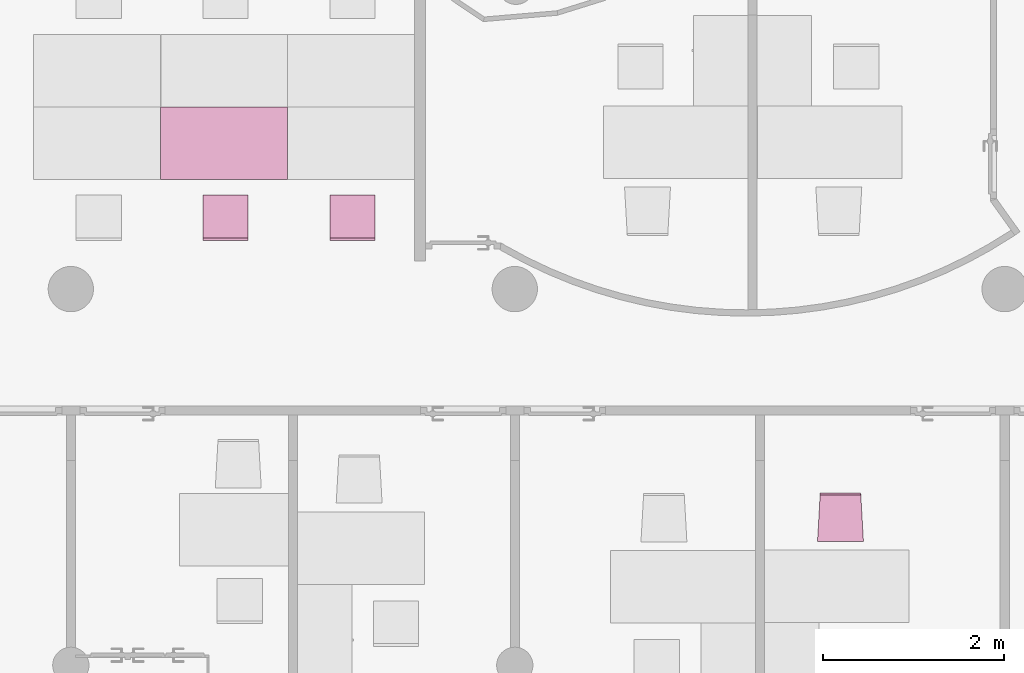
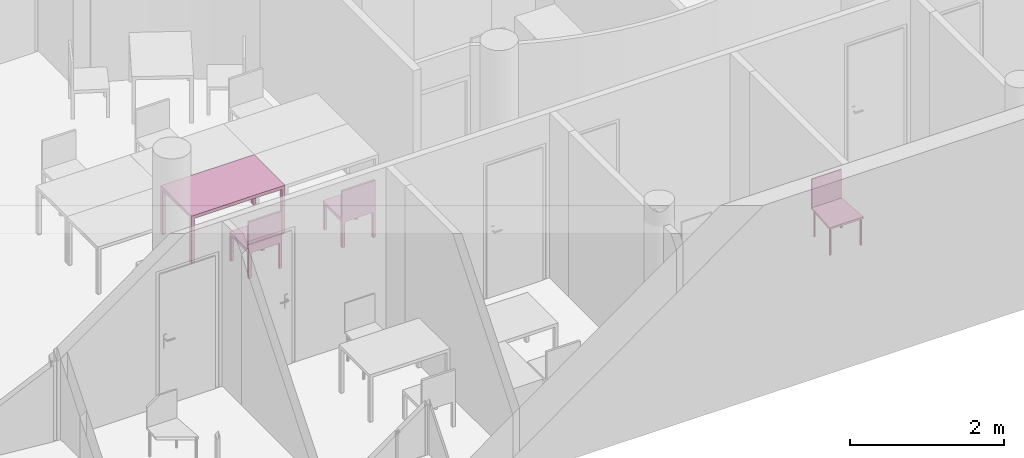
"""IFC4 building model written with IfcOpenShell, lengths in metres."""

from ifc_helpers import new_model, entity, si_unit, converted_unit, derived_unit, frame, origin, place, context, subcontext, project, spatial, faceted_brep, element, save


model = new_model("IFC4")

# Units and contexts
model_context = context("Model", 3, precision=1e-05, world=origin())
body_context = subcontext(model_context, "Body", "Model", "MODEL_VIEW")
ifc_project = project(units=[si_unit("LENGTHUNIT", "METRE"), si_unit("AREAUNIT", "SQUARE_METRE"), si_unit("VOLUMEUNIT", "CUBIC_METRE"), si_unit("MASSUNIT", "GRAM", prefix="KILO"), converted_unit("PLANEANGLEUNIT", "DEGREE", entity("IfcPlaneAngleMeasure", 0.0174532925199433), si_unit("PLANEANGLEUNIT", "RADIAN"), dimensions=[0, 0, 0, 0, 0, 0, 0]), derived_unit("THERMALTRANSMITTANCEUNIT", [(si_unit("POWERUNIT", "WATT"), 1), (si_unit("THERMODYNAMICTEMPERATUREUNIT", "KELVIN"), -1), (si_unit("LENGTHUNIT", "METRE"), -2)]), derived_unit("VOLUMETRICFLOWRATEUNIT", [(si_unit("LENGTHUNIT", "METRE"), 3), (converted_unit("TIMEUNIT", "hour", entity("IfcTimeMeasure", 3600.0), si_unit("TIMEUNIT", "SECOND"), dimensions=[0, 0, 1, 0, 0, 0, 0]), -1), (si_unit("LENGTHUNIT", "METRE"), -1)])], contexts=[model_context])

# Building, storeys
building_placement = place(None, origin())
building = spatial("IfcBuilding", under=ifc_project, at=building_placement, Name="HABITATGE PLURIFAMILIAR", CompositionType="ELEMENT")
storey_1_placement = place(building_placement, frame((0.0, 0.0, 6.25)))
storey_1 = spatial("IfcBuildingStorey", under=building, at=storey_1_placement, Name="PLANTA PRIMERA", CompositionType="ELEMENT", Elevation=6.25)
storey_2_placement = place(storey_1_placement, frame((0.0, 0.0, 3.35)))
storey_2 = spatial("IfcBuildingStorey", under=storey_1, at=storey_2_placement, Name="NOU", CompositionType="PARTIAL")

# Furniture
furniture_1_placement = place(storey_2_placement, frame((406.826915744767, 19.0086552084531, -3.35)))
element("IfcFurniture", 1, at=furniture_1_placement, inside=storey_2, Name="Taula 140X80_P1", context=body_context, shape_type="Brep", body=[
    faceted_brep([(1.40000000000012, 0.05, 0.0), (1.35357142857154, 0.05, 0.0), (1.35357142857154, 0.0, 0.0), (1.40000000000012, 0.0, 0.0), (1.40000000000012, 0.0, 0.7), (1.35357142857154, 0.0, 0.7), (1.35357142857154, 0.05, 0.7), (1.40000000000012, 0.05, 0.7)], [[[0, 1, 2, 3]], [[4, 5, 6, 7]], [[3, 4, 7, 0]], [[2, 5, 4, 3]], [[1, 6, 5, 2]], [[0, 7, 6, 1]]], orient=[[False], [False], [False], [False], [False], [False]]),
    faceted_brep([(1.40000000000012, 0.800069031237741, 0.0), (1.35357142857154, 0.800069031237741, 0.0), (1.35357142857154, 0.750069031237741, 0.0), (1.40000000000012, 0.750069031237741, 0.0), (1.40000000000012, 0.750069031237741, 0.7), (1.35357142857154, 0.750069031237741, 0.7), (1.35357142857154, 0.800069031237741, 0.7), (1.40000000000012, 0.800069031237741, 0.7)], [[[0, 1, 2, 3]], [[4, 5, 6, 7]], [[3, 4, 7, 0]], [[2, 5, 4, 3]], [[1, 6, 5, 2]], [[0, 7, 6, 1]]], orient=[[False], [False], [False], [False], [False], [False]]),
    faceted_brep([(1.40000000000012, 0.800069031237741, 0.7), (0.0, 0.800069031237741, 0.7), (0.0, 0.0, 0.7), (1.40000000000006, 0.0, 0.7), (1.40000000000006, 0.0, 0.75), (0.0, 0.0, 0.75), (0.0, 0.800069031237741, 0.75), (1.40000000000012, 0.800069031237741, 0.75)], [[[0, 1, 2, 3]], [[4, 5, 6, 7]], [[3, 4, 7, 0]], [[2, 5, 4, 3]], [[1, 6, 5, 2]], [[0, 7, 6, 1]]], orient=[[False], [False], [False], [False], [False], [False]]),
    faceted_brep([(0.046428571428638, 0.05, 0.0), (0.0, 0.05, 0.0), (0.0, 0.0, 0.0), (0.046428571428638, 0.0, 0.0), (0.046428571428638, 0.0, 0.7), (0.0, 0.0, 0.7), (0.0, 0.05, 0.7), (0.046428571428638, 0.05, 0.7)], [[[0, 1, 2, 3]], [[4, 5, 6, 7]], [[3, 4, 7, 0]], [[2, 5, 4, 3]], [[1, 6, 5, 2]], [[0, 7, 6, 1]]], orient=[[False], [False], [False], [False], [False], [False]]),
    faceted_brep([(0.046428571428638, 0.800069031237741, 0.0), (0.0, 0.800069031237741, 0.0), (0.0, 0.750069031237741, 0.0), (0.046428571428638, 0.750069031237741, 0.0), (0.046428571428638, 0.750069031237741, 0.7), (0.0, 0.750069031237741, 0.7), (0.0, 0.800069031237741, 0.7), (0.046428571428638, 0.800069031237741, 0.7)], [[[0, 1, 2, 3]], [[4, 5, 6, 7]], [[3, 4, 7, 0]], [[2, 5, 4, 3]], [[1, 6, 5, 2]], [[0, 7, 6, 1]]], orient=[[False], [False], [False], [False], [False], [False]]),
])
furniture_2_placement = place(storey_2_placement, frame((407.293907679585, 18.3347015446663, -3.34942958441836)))
element("IfcFurniture", 2, at=furniture_2_placement, inside=storey_2, Name="Cadira d'Oficina_P1", context=body_context, shape_type="Brep", body=[
    faceted_brep([(0.5, 0.5, 0.4), (0.0, 0.5, 0.4), (0.0, 0.0, 0.4), (0.5, 0.0, 0.4), (0.5, 0.0, 0.45), (0.0, 0.0, 0.45), (0.0, 0.5, 0.45), (0.5, 0.5, 0.45)], [[[0, 1, 2, 3]], [[4, 5, 6, 7]], [[3, 4, 7, 0]], [[2, 5, 4, 3]], [[1, 6, 5, 2]], [[0, 7, 6, 1]]], orient=[[False], [False], [False], [False], [False], [False]]),
    faceted_brep([(0.0, 0.04, 0.0), (0.0, 0.0, 0.0), (0.04, 0.0, 0.0), (0.04, 0.04, 0.0), (0.04, 0.04, 0.4), (0.04, 0.0, 0.4), (0.0, 0.0, 0.4), (0.0, 0.04, 0.4)], [[[0, 1, 2, 3]], [[4, 5, 6, 7]], [[3, 4, 7, 0]], [[2, 5, 4, 3]], [[1, 6, 5, 2]], [[0, 7, 6, 1]]], orient=[[False], [False], [False], [False], [False], [False]]),
    faceted_brep([(0.0, 0.5, 0.0), (0.0, 0.46, 0.0), (0.04, 0.46, 0.0), (0.04, 0.5, 0.0), (0.04, 0.5, 0.4), (0.04, 0.46, 0.4), (0.0, 0.46, 0.4), (0.0, 0.5, 0.4)], [[[0, 1, 2, 3]], [[4, 5, 6, 7]], [[3, 4, 7, 0]], [[2, 5, 4, 3]], [[1, 6, 5, 2]], [[0, 7, 6, 1]]], orient=[[False], [False], [False], [False], [False], [False]]),
    faceted_brep([(0.46, 0.04, 0.0), (0.46, 0.0, 0.0), (0.5, 0.0, 0.0), (0.5, 0.04, 0.0), (0.5, 0.04, 0.4), (0.5, 0.0, 0.4), (0.46, 0.0, 0.4), (0.46, 0.04, 0.4)], [[[0, 1, 2, 3]], [[4, 5, 6, 7]], [[3, 4, 7, 0]], [[2, 5, 4, 3]], [[1, 6, 5, 2]], [[0, 7, 6, 1]]], orient=[[False], [False], [False], [False], [False], [False]]),
    faceted_brep([(0.46, 0.5, 0.0), (0.46, 0.46, 0.0), (0.5, 0.46, 0.0), (0.5, 0.5, 0.0), (0.5, 0.5, 0.4), (0.5, 0.46, 0.4), (0.46, 0.46, 0.4), (0.46, 0.5, 0.4)], [[[0, 1, 2, 3]], [[4, 5, 6, 7]], [[3, 4, 7, 0]], [[2, 5, 4, 3]], [[1, 6, 5, 2]], [[0, 7, 6, 1]]], orient=[[False], [False], [False], [False], [False], [False]]),
    faceted_brep([(0.0, 0.03, 0.45), (0.0, 0.0, 0.45), (0.5, 0.0, 0.45), (0.5, 0.03, 0.45), (0.5, 0.03, 0.9), (0.5, 0.0, 0.9), (0.0, 0.0, 0.9), (0.0, 0.03, 0.9)], [[[0, 1, 2, 3]], [[4, 5, 6, 7]], [[3, 4, 7, 0]], [[2, 5, 4, 3]], [[1, 6, 5, 2]], [[0, 7, 6, 1]]], orient=[[False], [False], [False], [False], [False], [False]]),
])
furniture_3_placement = place(storey_2_placement, frame((408.693907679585, 18.3347015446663, -3.34942958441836)))
element("IfcFurniture", 3, at=furniture_3_placement, inside=storey_2, Name="Cadira d'Oficina_P1", context=body_context, shape_type="Brep", body=[
    faceted_brep([(0.5, 0.500000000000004, 0.4), (0.0, 0.500000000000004, 0.4), (0.0, 0.0, 0.4), (0.5, 0.0, 0.4), (0.5, 0.0, 0.45), (0.0, 0.0, 0.45), (0.0, 0.500000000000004, 0.45), (0.5, 0.500000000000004, 0.45)], [[[0, 1, 2, 3]], [[4, 5, 6, 7]], [[3, 4, 7, 0]], [[2, 5, 4, 3]], [[1, 6, 5, 2]], [[0, 7, 6, 1]]], orient=[[False], [False], [False], [False], [False], [False]]),
    faceted_brep([(0.0, 0.04, 0.0), (0.0, 0.0, 0.0), (0.04, 0.0, 0.0), (0.04, 0.04, 0.0), (0.04, 0.04, 0.4), (0.04, 0.0, 0.4), (0.0, 0.0, 0.4), (0.0, 0.04, 0.4)], [[[0, 1, 2, 3]], [[4, 5, 6, 7]], [[3, 4, 7, 0]], [[2, 5, 4, 3]], [[1, 6, 5, 2]], [[0, 7, 6, 1]]], orient=[[False], [False], [False], [False], [False], [False]]),
    faceted_brep([(0.0, 0.500000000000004, 0.0), (0.0, 0.460000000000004, 0.0), (0.04, 0.460000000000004, 0.0), (0.04, 0.500000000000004, 0.0), (0.04, 0.500000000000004, 0.4), (0.04, 0.460000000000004, 0.4), (0.0, 0.460000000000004, 0.4), (0.0, 0.500000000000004, 0.4)], [[[0, 1, 2, 3]], [[4, 5, 6, 7]], [[3, 4, 7, 0]], [[2, 5, 4, 3]], [[1, 6, 5, 2]], [[0, 7, 6, 1]]], orient=[[False], [False], [False], [False], [False], [False]]),
    faceted_brep([(0.46, 0.04, 0.0), (0.46, 0.0, 0.0), (0.5, 0.0, 0.0), (0.5, 0.04, 0.0), (0.5, 0.04, 0.4), (0.5, 0.0, 0.4), (0.46, 0.0, 0.4), (0.46, 0.04, 0.4)], [[[0, 1, 2, 3]], [[4, 5, 6, 7]], [[3, 4, 7, 0]], [[2, 5, 4, 3]], [[1, 6, 5, 2]], [[0, 7, 6, 1]]], orient=[[False], [False], [False], [False], [False], [False]]),
    faceted_brep([(0.46, 0.500000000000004, 0.0), (0.46, 0.460000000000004, 0.0), (0.5, 0.460000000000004, 0.0), (0.5, 0.500000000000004, 0.0), (0.5, 0.500000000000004, 0.4), (0.5, 0.460000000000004, 0.4), (0.46, 0.460000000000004, 0.4), (0.46, 0.500000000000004, 0.4)], [[[0, 1, 2, 3]], [[4, 5, 6, 7]], [[3, 4, 7, 0]], [[2, 5, 4, 3]], [[1, 6, 5, 2]], [[0, 7, 6, 1]]], orient=[[False], [False], [False], [False], [False], [False]]),
    faceted_brep([(0.0, 0.03, 0.45), (0.0, 0.0, 0.45), (0.5, 0.0, 0.45), (0.5, 0.03, 0.45), (0.5, 0.03, 0.9), (0.5, 0.0, 0.9), (0.0, 0.0, 0.9), (0.0, 0.03, 0.9)], [[[0, 1, 2, 3]], [[4, 5, 6, 7]], [[3, 4, 7, 0]], [[2, 5, 4, 3]], [[1, 6, 5, 2]], [[0, 7, 6, 1]]], orient=[[False], [False], [False], [False], [False], [False]]),
])
furniture_4_placement = place(storey_2_placement, frame((414.072892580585, 15.0153044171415, -3.35114412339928)))
element("IfcFurniture", 4, at=furniture_4_placement, inside=storey_2, Name="Cadira confient_P1", context=body_context, shape_type="Brep", body=[
    faceted_brep([(0.497227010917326, 0.0250324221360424, 0.0), (0.49701133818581, 0.0276273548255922, 0.0), (0.496348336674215, 0.0301454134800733, 0.0), (0.495258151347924, 0.0325100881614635, 0.0), (0.493773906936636, 0.0346495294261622, 0.0), (0.49194070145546, 0.0364987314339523, 0.0), (0.489814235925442, 0.0380015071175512, 0.0), (0.487459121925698, 0.0391121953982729, 0.0), (0.484946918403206, 0.0397970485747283, 0.0), (0.482353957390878, 0.0400352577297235, 0.0), (0.479759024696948, 0.0398195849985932, 0.0), (0.477240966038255, 0.0391565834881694, 0.0), (0.474876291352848, 0.0380663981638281, 0.0), (0.472736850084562, 0.0365821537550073, 0.0), (0.470887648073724, 0.0347489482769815, 0.0), (0.469384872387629, 0.0326224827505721, 0.0), (0.468274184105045, 0.0302673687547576, 0.0), (0.467589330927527, 0.0277551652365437, 0.0), (0.467351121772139, 0.0251622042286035, 0.0), (0.467566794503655, 0.0225672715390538, 0.0), (0.46822979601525, 0.0200492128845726, 0.0), (0.469319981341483, 0.0176845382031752, 0.0), (0.470804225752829, 0.0155450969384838, 0.0), (0.472637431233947, 0.0136958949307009, 0.0), (0.474763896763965, 0.012193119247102, 0.0), (0.477119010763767, 0.0110824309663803, 0.0), (0.479631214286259, 0.0103975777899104, 0.0), (0.482224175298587, 0.0101593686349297, 0.0), (0.484819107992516, 0.0103750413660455, 0.0), (0.48733716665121, 0.0110380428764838, 0.0), (0.489701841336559, 0.0121282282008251, 0.0), (0.491841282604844, 0.0136124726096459, 0.0), (0.493690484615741, 0.0154456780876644, 0.0), (0.495193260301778, 0.0175721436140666, 0.0), (0.49630394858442, 0.0199272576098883, 0.0), (0.496988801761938, 0.0224394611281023, 0.0), (0.497227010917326, 0.0250324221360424, 0.448281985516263), (0.496988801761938, 0.0224394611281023, 0.448281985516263), (0.49630394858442, 0.0199272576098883, 0.448281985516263), (0.495193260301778, 0.0175721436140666, 0.448281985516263), (0.493690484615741, 0.0154456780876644, 0.448281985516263), (0.491841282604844, 0.0136124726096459, 0.448281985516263), (0.489701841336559, 0.0121282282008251, 0.448281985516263), (0.48733716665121, 0.0110380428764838, 0.448281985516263), (0.484819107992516, 0.0103750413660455, 0.448281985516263), (0.482224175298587, 0.0101593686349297, 0.448281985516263), (0.479631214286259, 0.0103975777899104, 0.448281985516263), (0.477119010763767, 0.0110824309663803, 0.448281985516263), (0.474763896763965, 0.012193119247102, 0.448281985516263), (0.472637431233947, 0.0136958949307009, 0.448281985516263), (0.470804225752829, 0.0155450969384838, 0.448281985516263), (0.469319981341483, 0.0176845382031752, 0.448281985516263), (0.46822979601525, 0.0200492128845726, 0.448281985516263), (0.467566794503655, 0.0225672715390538, 0.448281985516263), (0.467351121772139, 0.0251622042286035, 0.448281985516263), (0.467589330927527, 0.0277551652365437, 0.448281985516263), (0.468274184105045, 0.0302673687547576, 0.448281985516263), (0.469384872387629, 0.0326224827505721, 0.448281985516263), (0.470887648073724, 0.0347489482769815, 0.448281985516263), (0.472736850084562, 0.0365821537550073, 0.448281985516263), (0.474876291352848, 0.0380663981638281, 0.448281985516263), (0.477240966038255, 0.0391565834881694, 0.448281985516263), (0.479759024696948, 0.0398195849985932, 0.448281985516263), (0.482353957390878, 0.0400352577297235, 0.448281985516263), (0.484946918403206, 0.0397970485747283, 0.448281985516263), (0.487459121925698, 0.0391121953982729, 0.448281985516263), (0.489814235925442, 0.0380015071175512, 0.448281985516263), (0.49194070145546, 0.0364987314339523, 0.448281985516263), (0.493773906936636, 0.0346495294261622, 0.448281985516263), (0.495258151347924, 0.0325100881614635, 0.448281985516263), (0.496348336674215, 0.0301454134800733, 0.448281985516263), (0.49701133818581, 0.0276273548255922, 0.448281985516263)], [[[0, 1, 2, 3, 4, 5, 6, 7, 8, 9, 10, 11, 12, 13, 14, 15, 16, 17, 18, 19, 20, 21, 22, 23, 24, 25, 26, 27, 28, 29, 30, 31, 32, 33, 34, 35]], [[36, 37, 38, 39, 40, 41, 42, 43, 44, 45, 46, 47, 48, 49, 50, 51, 52, 53, 54, 55, 56, 57, 58, 59, 60, 61, 62, 63, 64, 65, 66, 67, 68, 69, 70, 71]], [[1, 0, 36, 71]], [[2, 1, 71, 70]], [[3, 2, 70, 69]], [[4, 3, 69, 68]], [[5, 4, 68, 67]], [[6, 5, 67, 66]], [[7, 6, 66, 65]], [[8, 7, 65, 64]], [[9, 8, 64, 63]], [[10, 9, 63, 62]], [[11, 10, 62, 61]], [[12, 11, 61, 60]], [[13, 12, 60, 59]], [[14, 13, 59, 58]], [[15, 14, 58, 57]], [[16, 15, 57, 56]], [[17, 16, 56, 55]], [[18, 17, 55, 54]], [[19, 18, 54, 53]], [[20, 19, 53, 52]], [[21, 20, 52, 51]], [[22, 21, 51, 50]], [[23, 22, 50, 49]], [[24, 23, 49, 48]], [[25, 24, 48, 47]], [[26, 25, 47, 46]], [[27, 26, 46, 45]], [[28, 27, 45, 44]], [[29, 28, 44, 43]], [[30, 29, 43, 42]], [[31, 30, 42, 41]], [[32, 31, 41, 40]], [[33, 32, 40, 39]], [[34, 33, 39, 38]], [[35, 34, 38, 37]], [[0, 35, 37, 36]]], orient=[[False], [False], [False], [False], [False], [False], [False], [False], [False], [False], [False], [False], [False], [False], [False], [False], [False], [False], [False], [False], [False], [False], [False], [False], [False], [False], [False], [False], [False], [False], [False], [False], [False], [False], [False], [False], [False], [False]]),
    faceted_brep([(0.469589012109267, 0.487439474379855, 0.0), (0.469373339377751, 0.490034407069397, 0.0), (0.468710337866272, 0.492552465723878, 0.0), (0.467620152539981, 0.494917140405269, 0.0), (0.466135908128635, 0.497056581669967, 0.0), (0.464302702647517, 0.498905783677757, 0.0), (0.462176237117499, 0.500408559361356, 0.0), (0.459821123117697, 0.501519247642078, 0.0), (0.457308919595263, 0.502204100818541, 0.0), (0.454715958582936, 0.502442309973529, 0.0), (0.452121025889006, 0.502226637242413, 0.0), (0.449602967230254, 0.501563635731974, 0.0), (0.447238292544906, 0.500473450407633, 0.0), (0.44509885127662, 0.498989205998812, 0.0), (0.443249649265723, 0.497156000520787, 0.0), (0.441746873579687, 0.495029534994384, 0.0), (0.440636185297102, 0.49267442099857, 0.0), (0.439951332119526, 0.490162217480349, 0.0), (0.439713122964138, 0.487569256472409, 0.0), (0.439928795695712, 0.484974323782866, 0.0), (0.440591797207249, 0.482456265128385, 0.0), (0.441681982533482, 0.480091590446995, 0.0), (0.443166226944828, 0.477952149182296, 0.0), (0.444999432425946, 0.476102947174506, 0.0), (0.447125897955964, 0.474600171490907, 0.0), (0.449481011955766, 0.473489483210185, 0.0), (0.451993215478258, 0.47280463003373, 0.0), (0.454586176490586, 0.472566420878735, 0.0), (0.457181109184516, 0.472782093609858, 0.0), (0.45969916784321, 0.473445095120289, 0.0), (0.462063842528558, 0.47453528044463, 0.0), (0.464203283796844, 0.476019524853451, 0.0), (0.466052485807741, 0.477852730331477, 0.0), (0.467555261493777, 0.479979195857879, 0.0), (0.468665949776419, 0.482334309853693, 0.0), (0.469350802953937, 0.484846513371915, 0.0), (0.469589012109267, 0.487439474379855, 0.448281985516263), (0.469350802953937, 0.484846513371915, 0.448281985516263), (0.468665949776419, 0.482334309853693, 0.448281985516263), (0.467555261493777, 0.479979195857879, 0.448281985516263), (0.466052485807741, 0.477852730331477, 0.448281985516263), (0.464203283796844, 0.476019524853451, 0.448281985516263), (0.462063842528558, 0.47453528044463, 0.448281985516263), (0.45969916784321, 0.473445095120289, 0.448281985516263), (0.457181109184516, 0.472782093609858, 0.448281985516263), (0.454586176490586, 0.472566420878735, 0.448281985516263), (0.451993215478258, 0.47280463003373, 0.448281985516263), (0.449481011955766, 0.473489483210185, 0.448281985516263), (0.447125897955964, 0.474600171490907, 0.448281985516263), (0.444999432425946, 0.476102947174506, 0.448281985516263), (0.443166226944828, 0.477952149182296, 0.448281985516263), (0.441681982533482, 0.480091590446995, 0.448281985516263), (0.440591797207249, 0.482456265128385, 0.448281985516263), (0.439928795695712, 0.484974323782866, 0.448281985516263), (0.439713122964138, 0.487569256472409, 0.448281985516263), (0.439951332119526, 0.490162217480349, 0.448281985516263), (0.440636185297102, 0.49267442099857, 0.448281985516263), (0.441746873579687, 0.495029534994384, 0.448281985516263), (0.443249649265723, 0.497156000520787, 0.448281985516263), (0.44509885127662, 0.498989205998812, 0.448281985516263), (0.447238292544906, 0.500473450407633, 0.448281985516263), (0.449602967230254, 0.501563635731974, 0.448281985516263), (0.452121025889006, 0.502226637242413, 0.448281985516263), (0.454715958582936, 0.502442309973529, 0.448281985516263), (0.457308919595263, 0.502204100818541, 0.448281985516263), (0.459821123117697, 0.501519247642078, 0.448281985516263), (0.462176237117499, 0.500408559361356, 0.448281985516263), (0.464302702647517, 0.498905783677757, 0.448281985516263), (0.466135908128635, 0.497056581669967, 0.448281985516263), (0.467620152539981, 0.494917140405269, 0.448281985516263), (0.468710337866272, 0.492552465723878, 0.448281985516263), (0.469373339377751, 0.490034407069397, 0.448281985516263)], [[[0, 1, 2, 3, 4, 5, 6, 7, 8, 9, 10, 11, 12, 13, 14, 15, 16, 17, 18, 19, 20, 21, 22, 23, 24, 25, 26, 27, 28, 29, 30, 31, 32, 33, 34, 35]], [[36, 37, 38, 39, 40, 41, 42, 43, 44, 45, 46, 47, 48, 49, 50, 51, 52, 53, 54, 55, 56, 57, 58, 59, 60, 61, 62, 63, 64, 65, 66, 67, 68, 69, 70, 71]], [[1, 0, 36, 71]], [[2, 1, 71, 70]], [[3, 2, 70, 69]], [[4, 3, 69, 68]], [[5, 4, 68, 67]], [[6, 5, 67, 66]], [[7, 6, 66, 65]], [[8, 7, 65, 64]], [[9, 8, 64, 63]], [[10, 9, 63, 62]], [[11, 10, 62, 61]], [[12, 11, 61, 60]], [[13, 12, 60, 59]], [[14, 13, 59, 58]], [[15, 14, 58, 57]], [[16, 15, 57, 56]], [[17, 16, 56, 55]], [[18, 17, 55, 54]], [[19, 18, 54, 53]], [[20, 19, 53, 52]], [[21, 20, 52, 51]], [[22, 21, 51, 50]], [[23, 22, 50, 49]], [[24, 23, 49, 48]], [[25, 24, 48, 47]], [[26, 25, 47, 46]], [[27, 26, 46, 45]], [[28, 27, 45, 44]], [[29, 28, 44, 43]], [[30, 29, 43, 42]], [[31, 30, 42, 41]], [[32, 31, 41, 40]], [[33, 32, 40, 39]], [[34, 33, 39, 38]], [[35, 34, 38, 37]], [[0, 35, 37, 36]]], orient=[[False], [False], [False], [False], [False], [False], [False], [False], [False], [False], [False], [False], [False], [False], [False], [False], [False], [False], [False], [False], [False], [False], [False], [False], [False], [False], [False], [False], [False], [False], [False], [False], [False], [False], [False], [False], [False], [False]]),
    faceted_brep([(0.0372270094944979, 0.0250324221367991, 0.0), (0.0370113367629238, 0.0276273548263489, 0.0), (0.0363483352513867, 0.0301454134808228, 0.0), (0.0352581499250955, 0.0325100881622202, 0.0), (0.0337739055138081, 0.0346495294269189, 0.0), (0.0319407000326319, 0.0364987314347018, 0.0), (0.0298142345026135, 0.0380015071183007, 0.0), (0.0274591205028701, 0.0391121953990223, 0.0), (0.0249469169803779, 0.039797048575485, 0.0), (0.0223539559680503, 0.040035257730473, 0.0), (0.0197590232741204, 0.0398195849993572, 0.0), (0.0172409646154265, 0.0391565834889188, 0.0), (0.0148762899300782, 0.0380663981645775, 0.0), (0.0127368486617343, 0.0365821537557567, 0.0), (0.0108876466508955, 0.0347489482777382, 0.0), (0.00938487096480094, 0.0326224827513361, 0.0), (0.00827418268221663, 0.0302673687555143, 0.0), (0.00758932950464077, 0.0277551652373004, 0.0), (0.0073511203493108, 0.0251622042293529, 0.0), (0.00756679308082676, 0.0225672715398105, 0.0), (0.00822979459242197, 0.0200492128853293, 0.0), (0.00931997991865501, 0.0176845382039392, 0.0), (0.0108042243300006, 0.0155450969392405, 0.0), (0.0126374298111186, 0.0136958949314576, 0.0), (0.0147638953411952, 0.0121931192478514, 0.0), (0.0171190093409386, 0.0110824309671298, 0.0), (0.0196312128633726, 0.0103975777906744, 0.0), (0.0222241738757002, 0.0101593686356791, 0.0), (0.0248191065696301, 0.0103750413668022, 0.0), (0.0273371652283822, 0.0110380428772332, 0.0), (0.0297018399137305, 0.0121282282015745, 0.0), (0.0318412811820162, 0.0136124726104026, 0.0), (0.0336904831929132, 0.0154456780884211, 0.0), (0.0351932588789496, 0.0175721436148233, 0.0), (0.0363039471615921, 0.0199272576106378, 0.0), (0.0369888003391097, 0.022439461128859, 0.0), (0.0372270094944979, 0.0250324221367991, 0.448281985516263), (0.0369888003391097, 0.022439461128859, 0.448281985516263), (0.0363039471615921, 0.0199272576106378, 0.448281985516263), (0.0351932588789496, 0.0175721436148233, 0.448281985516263), (0.0336904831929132, 0.0154456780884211, 0.448281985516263), (0.0318412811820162, 0.0136124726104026, 0.448281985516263), (0.0297018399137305, 0.0121282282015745, 0.448281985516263), (0.0273371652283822, 0.0110380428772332, 0.448281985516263), (0.0248191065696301, 0.0103750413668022, 0.448281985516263), (0.0222241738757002, 0.0101593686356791, 0.448281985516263), (0.0196312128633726, 0.0103975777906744, 0.448281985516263), (0.0171190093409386, 0.0110824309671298, 0.448281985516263), (0.0147638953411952, 0.0121931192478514, 0.448281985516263), (0.0126374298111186, 0.0136958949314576, 0.448281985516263), (0.0108042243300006, 0.0155450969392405, 0.448281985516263), (0.00931997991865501, 0.0176845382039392, 0.448281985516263), (0.00822979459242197, 0.0200492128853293, 0.448281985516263), (0.00756679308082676, 0.0225672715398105, 0.448281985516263), (0.0073511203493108, 0.0251622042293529, 0.448281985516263), (0.00758932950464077, 0.0277551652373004, 0.448281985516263), (0.00827418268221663, 0.0302673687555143, 0.448281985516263), (0.00938487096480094, 0.0326224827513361, 0.448281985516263), (0.0108876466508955, 0.0347489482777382, 0.448281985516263), (0.0127368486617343, 0.0365821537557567, 0.448281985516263), (0.0148762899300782, 0.0380663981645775, 0.448281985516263), (0.0172409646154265, 0.0391565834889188, 0.448281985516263), (0.0197590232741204, 0.0398195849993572, 0.448281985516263), (0.0223539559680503, 0.040035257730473, 0.448281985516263), (0.0249469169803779, 0.039797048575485, 0.448281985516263), (0.0274591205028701, 0.0391121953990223, 0.448281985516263), (0.0298142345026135, 0.0380015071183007, 0.448281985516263), (0.0319407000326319, 0.0364987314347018, 0.448281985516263), (0.0337739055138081, 0.0346495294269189, 0.448281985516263), (0.0352581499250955, 0.0325100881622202, 0.448281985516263), (0.0363483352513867, 0.0301454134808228, 0.448281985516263), (0.0370113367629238, 0.0276273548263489, 0.448281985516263)], [[[0, 1, 2, 3, 4, 5, 6, 7, 8, 9, 10, 11, 12, 13, 14, 15, 16, 17, 18, 19, 20, 21, 22, 23, 24, 25, 26, 27, 28, 29, 30, 31, 32, 33, 34, 35]], [[36, 37, 38, 39, 40, 41, 42, 43, 44, 45, 46, 47, 48, 49, 50, 51, 52, 53, 54, 55, 56, 57, 58, 59, 60, 61, 62, 63, 64, 65, 66, 67, 68, 69, 70, 71]], [[1, 0, 36, 71]], [[2, 1, 71, 70]], [[3, 2, 70, 69]], [[4, 3, 69, 68]], [[5, 4, 68, 67]], [[6, 5, 67, 66]], [[7, 6, 66, 65]], [[8, 7, 65, 64]], [[9, 8, 64, 63]], [[10, 9, 63, 62]], [[11, 10, 62, 61]], [[12, 11, 61, 60]], [[13, 12, 60, 59]], [[14, 13, 59, 58]], [[15, 14, 58, 57]], [[16, 15, 57, 56]], [[17, 16, 56, 55]], [[18, 17, 55, 54]], [[19, 18, 54, 53]], [[20, 19, 53, 52]], [[21, 20, 52, 51]], [[22, 21, 51, 50]], [[23, 22, 50, 49]], [[24, 23, 49, 48]], [[25, 24, 48, 47]], [[26, 25, 47, 46]], [[27, 26, 46, 45]], [[28, 27, 45, 44]], [[29, 28, 44, 43]], [[30, 29, 43, 42]], [[31, 30, 42, 41]], [[32, 31, 41, 40]], [[33, 32, 40, 39]], [[34, 33, 39, 38]], [[35, 34, 38, 37]], [[0, 35, 37, 36]]], orient=[[False], [False], [False], [False], [False], [False], [False], [False], [False], [False], [False], [False], [False], [False], [False], [False], [False], [False], [False], [False], [False], [False], [False], [False], [False], [False], [False], [False], [False], [False], [False], [False], [False], [False], [False], [False], [False], [False]]),
    faceted_brep([(0.0695890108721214, 0.487439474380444, 0.0), (0.0693733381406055, 0.490034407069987, 0.0), (0.0687103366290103, 0.492552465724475, 0.0), (0.0676201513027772, 0.494917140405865, 0.0), (0.0661359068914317, 0.497056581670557, 0.0), (0.0643027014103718, 0.498905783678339, 0.0), (0.0621762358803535, 0.500408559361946, 0.0), (0.0598211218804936, 0.501519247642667, 0.0), (0.0573089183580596, 0.50220410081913, 0.0), (0.054715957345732, 0.502442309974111, 0.0), (0.0521210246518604, 0.502226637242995, 0.0), (0.04960296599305, 0.501563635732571, 0.0), (0.0472382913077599, 0.50047345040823, 0.0), (0.0450988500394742, 0.498989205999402, 0.0), (0.043249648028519, 0.497156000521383, 0.0), (0.0417468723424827, 0.495029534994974, 0.0), (0.0406361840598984, 0.492674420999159, 0.0), (0.0399513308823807, 0.490162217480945, 0.0), (0.0397131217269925, 0.487569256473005, 0.0), (0.0399287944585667, 0.484974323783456, 0.0), (0.0405917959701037, 0.482456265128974, 0.0), (0.0416819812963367, 0.480091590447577, 0.0), (0.0431662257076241, 0.477952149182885, 0.0), (0.0449994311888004, 0.476102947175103, 0.0), (0.0471258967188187, 0.474600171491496, 0.0), (0.0494810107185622, 0.473489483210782, 0.0), (0.0519932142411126, 0.472804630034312, 0.0), (0.054586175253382, 0.472566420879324, 0.0), (0.0571811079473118, 0.472782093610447, 0.0), (0.0596991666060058, 0.473445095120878, 0.0), (0.0620638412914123, 0.474535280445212, 0.0), (0.064203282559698, 0.47601952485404, 0.0), (0.0660524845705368, 0.477852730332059, 0.0), (0.0675552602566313, 0.479979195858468, 0.0), (0.0686659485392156, 0.48233430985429, 0.0), (0.0693508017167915, 0.484846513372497, 0.0), (0.0695890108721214, 0.487439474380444, 0.448281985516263), (0.0693508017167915, 0.484846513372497, 0.448281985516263), (0.0686659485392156, 0.48233430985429, 0.448281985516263), (0.0675552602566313, 0.479979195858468, 0.448281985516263), (0.0660524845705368, 0.477852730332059, 0.448281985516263), (0.064203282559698, 0.47601952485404, 0.448281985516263), (0.0620638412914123, 0.474535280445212, 0.448281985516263), (0.0596991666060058, 0.473445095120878, 0.448281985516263), (0.0571811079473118, 0.472782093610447, 0.448281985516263), (0.054586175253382, 0.472566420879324, 0.448281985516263), (0.0519932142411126, 0.472804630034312, 0.448281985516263), (0.0494810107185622, 0.473489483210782, 0.448281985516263), (0.0471258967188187, 0.474600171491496, 0.448281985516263), (0.0449994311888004, 0.476102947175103, 0.448281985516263), (0.0431662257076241, 0.477952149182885, 0.448281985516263), (0.0416819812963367, 0.480091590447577, 0.448281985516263), (0.0405917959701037, 0.482456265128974, 0.448281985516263), (0.0399287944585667, 0.484974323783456, 0.448281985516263), (0.0397131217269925, 0.487569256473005, 0.448281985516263), (0.0399513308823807, 0.490162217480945, 0.448281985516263), (0.0406361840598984, 0.492674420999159, 0.448281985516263), (0.0417468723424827, 0.495029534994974, 0.448281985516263), (0.043249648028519, 0.497156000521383, 0.448281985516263), (0.0450988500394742, 0.498989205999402, 0.448281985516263), (0.0472382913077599, 0.50047345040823, 0.448281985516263), (0.04960296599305, 0.501563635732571, 0.448281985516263), (0.0521210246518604, 0.502226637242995, 0.448281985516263), (0.054715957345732, 0.502442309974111, 0.448281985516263), (0.0573089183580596, 0.50220410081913, 0.448281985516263), (0.0598211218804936, 0.501519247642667, 0.448281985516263), (0.0621762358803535, 0.500408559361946, 0.448281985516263), (0.0643027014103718, 0.498905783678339, 0.448281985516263), (0.0661359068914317, 0.497056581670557, 0.448281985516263), (0.0676201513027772, 0.494917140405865, 0.448281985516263), (0.0687103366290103, 0.492552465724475, 0.448281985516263), (0.0693733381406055, 0.490034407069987, 0.448281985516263)], [[[0, 1, 2, 3, 4, 5, 6, 7, 8, 9, 10, 11, 12, 13, 14, 15, 16, 17, 18, 19, 20, 21, 22, 23, 24, 25, 26, 27, 28, 29, 30, 31, 32, 33, 34, 35]], [[36, 37, 38, 39, 40, 41, 42, 43, 44, 45, 46, 47, 48, 49, 50, 51, 52, 53, 54, 55, 56, 57, 58, 59, 60, 61, 62, 63, 64, 65, 66, 67, 68, 69, 70, 71]], [[1, 0, 36, 71]], [[2, 1, 71, 70]], [[3, 2, 70, 69]], [[4, 3, 69, 68]], [[5, 4, 68, 67]], [[6, 5, 67, 66]], [[7, 6, 66, 65]], [[8, 7, 65, 64]], [[9, 8, 64, 63]], [[10, 9, 63, 62]], [[11, 10, 62, 61]], [[12, 11, 61, 60]], [[13, 12, 60, 59]], [[14, 13, 59, 58]], [[15, 14, 58, 57]], [[16, 15, 57, 56]], [[17, 16, 56, 55]], [[18, 17, 55, 54]], [[19, 18, 54, 53]], [[20, 19, 53, 52]], [[21, 20, 52, 51]], [[22, 21, 51, 50]], [[23, 22, 50, 49]], [[24, 23, 49, 48]], [[25, 24, 48, 47]], [[26, 25, 47, 46]], [[27, 26, 46, 45]], [[28, 27, 45, 44]], [[29, 28, 44, 43]], [[30, 29, 43, 42]], [[31, 30, 42, 41]], [[32, 31, 41, 40]], [[33, 32, 40, 39]], [[34, 33, 39, 38]], [[35, 34, 38, 37]], [[0, 35, 37, 36]]], orient=[[False], [False], [False], [False], [False], [False], [False], [False], [False], [False], [False], [False], [False], [False], [False], [False], [False], [False], [False], [False], [False], [False], [False], [False], [False], [False], [False], [False], [False], [False], [False], [False], [False], [False], [False], [False], [False], [False]]),
    faceted_brep([(0.0300000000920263, 0.532607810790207, 0.418281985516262), (0.0, 0.0, 0.418281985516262), (0.506514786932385, 0.0, 0.418281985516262), (0.476514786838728, 0.532607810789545, 0.418281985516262), (0.0, 0.0, 0.448281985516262), (0.0300000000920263, 0.532607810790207, 0.448281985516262), (0.476514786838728, 0.532607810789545, 0.448281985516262), (0.506514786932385, 0.0, 0.448281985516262)], [[[0, 1, 2, 3]], [[4, 5, 6, 7]], [[1, 0, 5, 4]], [[2, 1, 4, 7]], [[3, 2, 7, 6]], [[0, 3, 6, 5]]], orient=[[False], [False], [False], [False], [False], [False]]),
    faceted_brep([(0.0300000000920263, 0.512607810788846, 0.448281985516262), (0.476514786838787, 0.512607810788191, 0.448281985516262), (0.476514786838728, 0.532607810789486, 0.448281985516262), (0.0300000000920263, 0.532607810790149, 0.448281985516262), (0.476514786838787, 0.512607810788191, 0.898281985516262), (0.0300000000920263, 0.512607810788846, 0.898281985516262), (0.0300000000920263, 0.532607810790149, 0.898281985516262), (0.476514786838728, 0.532607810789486, 0.898281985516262)], [[[0, 1, 2, 3]], [[4, 5, 6, 7]], [[1, 0, 5, 4]], [[2, 1, 4, 7]], [[3, 2, 7, 6]], [[0, 3, 6, 5]]], orient=[[False], [False], [False], [False], [False], [False]]),
])

save(model, "model.ifc")
